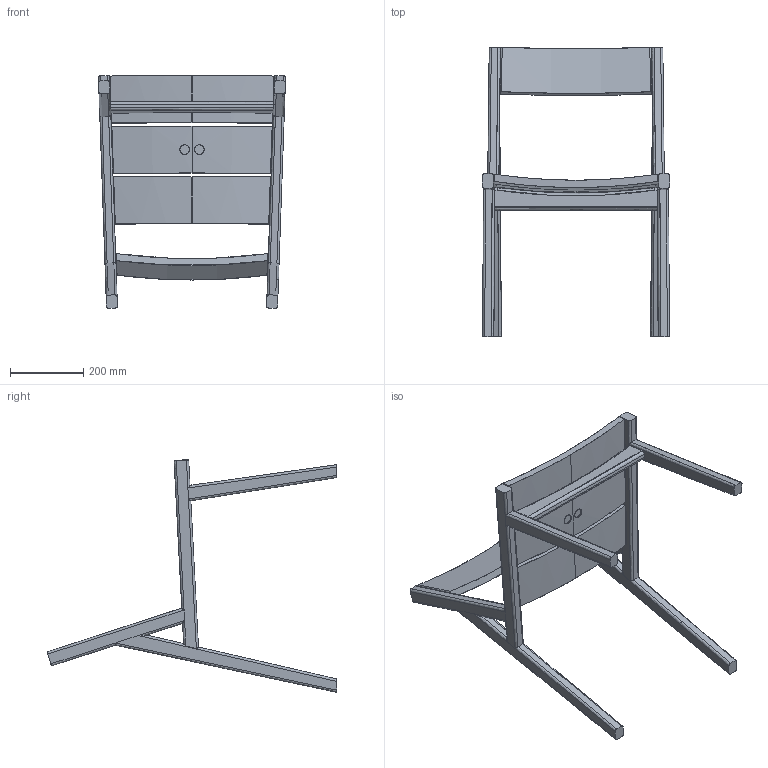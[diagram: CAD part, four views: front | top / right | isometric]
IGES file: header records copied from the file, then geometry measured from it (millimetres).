
Start section: SolidWorks IGES file using analytic representation for surfaces
Global section: file name: C:\Users\Ruben\Box\Neri & Hu\575 Outdoor Armless Dining Chair\Sales related\3D IGES\575 Outdoor Armless Dining Chair_vb_prmt.IGS; native system: SolidWorks 2016; preprocessor: SolidWorks 2016; author: Ruben; date: 211123.122723; units: millimetre
Bounding box: 511.21 x 791.67 x 635.25 mm (x, y, z)
Surface area: 1075307.1 mm2 (no closed solid volume)
Topology: 0 solids, 0 shells, 241 faces, 2873 edges, 2871 vertices
Faces by surface type: bspline 168, revolution 73
